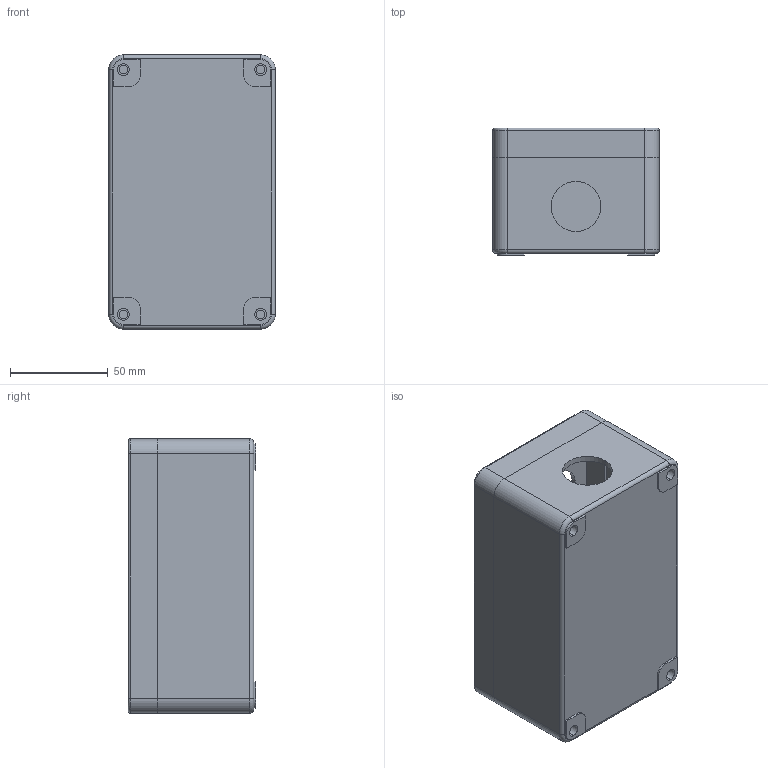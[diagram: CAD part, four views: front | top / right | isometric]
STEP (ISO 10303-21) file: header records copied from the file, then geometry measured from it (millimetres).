
FILE_DESCRIPTION (( 'STEP AP214' ), '1' );
FILE_NAME ('040C0814-6EP4.STEP', '2018-08-16T14:00:49', ( '' ), ( '' ), 'SwSTEP 2.0', 'SolidWorks 2013', '' );
FILE_SCHEMA (( 'AUTOMOTIVE_DESIGN' ));
Length unit declared in the file: millimetre
Products named in the file (1): 040C0814-6EP4
Bounding box: 85 x 65 x 140 mm (x, y, z)
Volume: 168262.6 mm3; surface area: 106328.8 mm2
Topology: 6 solids, 6 shells, 592 faces, 1468 edges, 928 vertices
Faces by surface type: plane 267, cylinder 245, torus 80
Entity records: 23594 total; most frequent: DIRECTION 3205, CARTESIAN_POINT 3037, ORIENTED_EDGE 2936, EDGE_CURVE 1468, AXIS2_PLACEMENT_3D 1160, VERTEX_POINT 928, VECTOR 885, LINE 885
